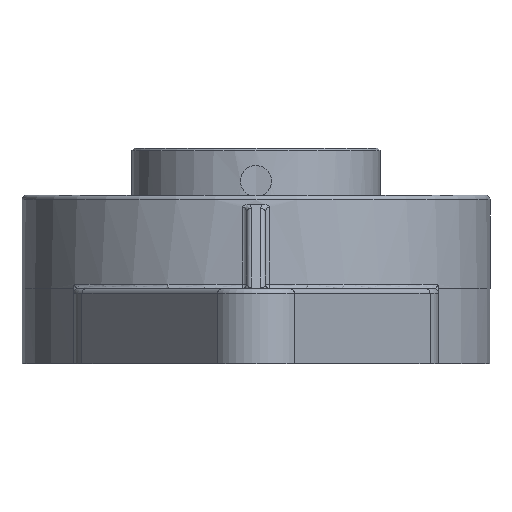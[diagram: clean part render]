
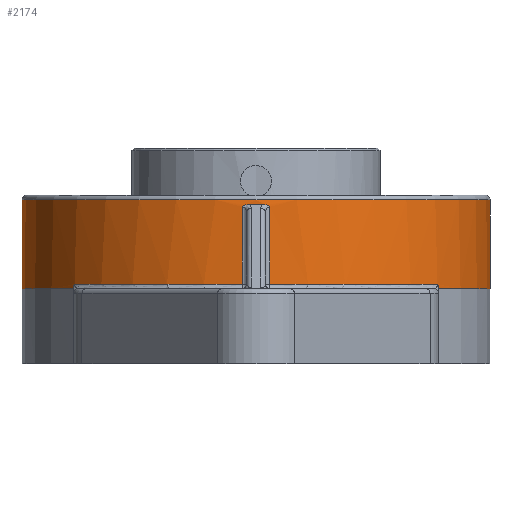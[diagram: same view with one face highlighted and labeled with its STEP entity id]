
A CAD part, front view. The second image highlights one B-rep face of the part: STEP entity #2174.
In plain terms, the highlighted cylindrical face has radius 50 mm (diameter 100 mm), a partial arc.
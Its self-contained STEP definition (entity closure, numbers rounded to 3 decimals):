
#655=CARTESIAN_POINT('Vertex',(1.626,-49.974,34.042)) ;
#682=CARTESIAN_POINT('Vertex',(2.941,-49.913,33.511)) ;
#686=CARTESIAN_POINT('Control Point',(1.626,-49.974,34.042)) ;
#687=CARTESIAN_POINT('Control Point',(2.051,-49.96,34.05)) ;
#688=CARTESIAN_POINT('Control Point',(2.443,-49.942,33.912)) ;
#689=CARTESIAN_POINT('Control Point',(2.721,-49.926,33.719)) ;
#690=CARTESIAN_POINT('Control Point',(2.941,-49.913,33.511)) ;
#770=CARTESIAN_POINT('Vertex',(-2.941,-49.913,33.511)) ;
#797=CARTESIAN_POINT('Vertex',(-1.626,-49.974,34.042)) ;
#801=CARTESIAN_POINT('Control Point',(-1.626,-49.974,34.042)) ;
#802=CARTESIAN_POINT('Control Point',(-2.051,-49.96,34.05)) ;
#803=CARTESIAN_POINT('Control Point',(-2.443,-49.942,33.912)) ;
#804=CARTESIAN_POINT('Control Point',(-2.721,-49.926,33.719)) ;
#805=CARTESIAN_POINT('Control Point',(-2.941,-49.913,33.511)) ;
#853=CARTESIAN_POINT('Vertex',(2.941,-49.913,17.)) ;
#856=CARTESIAN_POINT('Line Origine',(2.941,-49.913,26.)) ;
#907=CARTESIAN_POINT('Control Point',(-1.626,-49.974,34.042)) ;
#908=CARTESIAN_POINT('Control Point',(-0.976,-49.995,34.029)) ;
#909=CARTESIAN_POINT('Control Point',(-0.325,-50.005,34.023)) ;
#910=CARTESIAN_POINT('Control Point',(0.325,-50.005,34.023)) ;
#911=CARTESIAN_POINT('Control Point',(0.976,-49.995,34.029)) ;
#912=CARTESIAN_POINT('Control Point',(1.626,-49.974,34.042)) ;
#974=CARTESIAN_POINT('Vertex',(-2.941,-49.913,17.)) ;
#977=CARTESIAN_POINT('Line Origine',(-2.941,-49.913,26.)) ;
#1547=CARTESIAN_POINT('Vertex',(39.,-31.289,16.08)) ;
#1559=CARTESIAN_POINT('Vertex',(39.,-31.289,16.)) ;
#1562=CARTESIAN_POINT('Line Origine',(39.,-31.289,16.04)) ;
#1607=CARTESIAN_POINT('Vertex',(-39.,-31.289,16.08)) ;
#1610=CARTESIAN_POINT('Line Origine',(-39.,-31.289,16.04)) ;
#1614=CARTESIAN_POINT('Vertex',(-39.,-31.289,16.)) ;
#1744=CARTESIAN_POINT('Vertex',(-38.776,-31.567,17.)) ;
#1747=CARTESIAN_POINT('Axis2P3D Location',(0.,0.,17.)) ;
#1777=CARTESIAN_POINT('Vertex',(38.776,-31.567,17.)) ;
#1780=CARTESIAN_POINT('Axis2P3D Location',(0.,0.,17.)) ;
#1990=CARTESIAN_POINT('Control Point',(39.,-31.289,16.08)) ;
#1991=CARTESIAN_POINT('Control Point',(39.,-31.289,16.373)) ;
#1992=CARTESIAN_POINT('Control Point',(38.953,-31.347,16.645)) ;
#1993=CARTESIAN_POINT('Control Point',(38.872,-31.448,16.848)) ;
#1994=CARTESIAN_POINT('Control Point',(38.776,-31.567,17.)) ;
#2077=CARTESIAN_POINT('Control Point',(-39.,-31.289,16.08)) ;
#2078=CARTESIAN_POINT('Control Point',(-39.,-31.289,16.373)) ;
#2079=CARTESIAN_POINT('Control Point',(-38.954,-31.347,16.644)) ;
#2080=CARTESIAN_POINT('Control Point',(-38.872,-31.448,16.849)) ;
#2081=CARTESIAN_POINT('Control Point',(-38.776,-31.567,17.)) ;
#2118=CARTESIAN_POINT('Axis2P3D Location',(0.,0.,26.)) ;
#2123=CARTESIAN_POINT('Line Origine',(-50.,0.,26.)) ;
#2127=CARTESIAN_POINT('Vertex',(-50.,0.,16.)) ;
#2129=CARTESIAN_POINT('Vertex',(-50.,0.,35.)) ;
#2132=CARTESIAN_POINT('Axis2P3D Location',(0.,0.,16.)) ;
#2137=CARTESIAN_POINT('Axis2P3D Location',(0.,0.,16.)) ;
#2141=CARTESIAN_POINT('Vertex',(50.,0.,16.)) ;
#2144=CARTESIAN_POINT('Line Origine',(50.,0.,26.)) ;
#2148=CARTESIAN_POINT('Vertex',(50.,0.,35.)) ;
#2151=CARTESIAN_POINT('Axis2P3D Location',(0.,0.,35.)) ;
#857=DIRECTION('Vector Direction',(0.,0.,1.)) ;
#978=DIRECTION('Vector Direction',(0.,0.,-1.)) ;
#1563=DIRECTION('Vector Direction',(0.,0.,1.)) ;
#1611=DIRECTION('Vector Direction',(0.,0.,1.)) ;
#1748=DIRECTION('Axis2P3D Direction',(0.,-0.,1.)) ;
#1781=DIRECTION('Axis2P3D Direction',(0.,0.,1.)) ;
#2119=DIRECTION('Axis2P3D Direction',(0.,0.,1.)) ;
#2120=DIRECTION('Axis2P3D XDirection',(1.,0.,0.)) ;
#2124=DIRECTION('Vector Direction',(0.,0.,1.)) ;
#2133=DIRECTION('Axis2P3D Direction',(0.,0.,1.)) ;
#2138=DIRECTION('Axis2P3D Direction',(0.,0.,1.)) ;
#2145=DIRECTION('Vector Direction',(0.,0.,1.)) ;
#2152=DIRECTION('Axis2P3D Direction',(0.,0.,1.)) ;
#1749=AXIS2_PLACEMENT_3D('Circle Axis2P3D',#1747,#1748,$) ;
#1782=AXIS2_PLACEMENT_3D('Circle Axis2P3D',#1780,#1781,$) ;
#2121=AXIS2_PLACEMENT_3D('Cylinder Axis2P3D',#2118,#2119,#2120) ;
#2134=AXIS2_PLACEMENT_3D('Circle Axis2P3D',#2132,#2133,$) ;
#2139=AXIS2_PLACEMENT_3D('Circle Axis2P3D',#2137,#2138,$) ;
#2153=AXIS2_PLACEMENT_3D('Circle Axis2P3D',#2151,#2152,$) ;
#2157=ORIENTED_EDGE('',*,*,#2131,.F.) ;
#2158=ORIENTED_EDGE('',*,*,#2136,.T.) ;
#2159=ORIENTED_EDGE('',*,*,#1616,.T.) ;
#2160=ORIENTED_EDGE('',*,*,#2082,.F.) ;
#2161=ORIENTED_EDGE('',*,*,#1751,.F.) ;
#2162=ORIENTED_EDGE('',*,*,#981,.F.) ;
#2163=ORIENTED_EDGE('',*,*,#806,.F.) ;
#2164=ORIENTED_EDGE('',*,*,#913,.T.) ;
#2165=ORIENTED_EDGE('',*,*,#691,.F.) ;
#2166=ORIENTED_EDGE('',*,*,#860,.T.) ;
#2167=ORIENTED_EDGE('',*,*,#1784,.F.) ;
#2168=ORIENTED_EDGE('',*,*,#1995,.F.) ;
#2169=ORIENTED_EDGE('',*,*,#1566,.T.) ;
#2170=ORIENTED_EDGE('',*,*,#2143,.T.) ;
#2171=ORIENTED_EDGE('',*,*,#2150,.T.) ;
#2172=ORIENTED_EDGE('',*,*,#2155,.F.) ;
#858=VECTOR('Line Direction',#857,1.) ;
#979=VECTOR('Line Direction',#978,1.) ;
#1564=VECTOR('Line Direction',#1563,1.) ;
#1612=VECTOR('Line Direction',#1611,1.) ;
#2125=VECTOR('Line Direction',#2124,1.) ;
#2146=VECTOR('Line Direction',#2145,1.) ;
#2174=ADVANCED_FACE('PartBody',(#2173),#2122,.T.) ;
#685=B_SPLINE_CURVE_WITH_KNOTS('',4,(#686,#687,#688,#689,#690),.UNSPECIFIED.,.F.,.U.,(5,5),(0.,2.422),.UNSPECIFIED.) ;
#800=B_SPLINE_CURVE_WITH_KNOTS('',4,(#801,#802,#803,#804,#805),.UNSPECIFIED.,.F.,.U.,(5,5),(0.,2.422),.UNSPECIFIED.) ;
#906=B_SPLINE_CURVE_WITH_KNOTS('',5,(#907,#908,#909,#910,#911,#912),.UNSPECIFIED.,.F.,.U.,(6,6),(0.53,5.129),.UNSPECIFIED.) ;
#1989=B_SPLINE_CURVE_WITH_KNOTS('',4,(#1990,#1991,#1992,#1993,#1994),.UNSPECIFIED.,.F.,.U.,(5,5),(0.,1.839),.UNSPECIFIED.) ;
#2076=B_SPLINE_CURVE_WITH_KNOTS('',4,(#2077,#2078,#2079,#2080,#2081),.UNSPECIFIED.,.F.,.U.,(5,5),(0.,1.837),.UNSPECIFIED.) ;
#1750=CIRCLE('generated circle',#1749,50.) ;
#1783=CIRCLE('generated circle',#1782,50.) ;
#2135=CIRCLE('generated circle',#2134,50.) ;
#2140=CIRCLE('generated circle',#2139,50.) ;
#2154=CIRCLE('generated circle',#2153,50.) ;
#2122=CYLINDRICAL_SURFACE('generated cylinder',#2121,50.) ;
#691=EDGE_CURVE('',#683,#656,#685,.F.) ;
#806=EDGE_CURVE('',#798,#771,#800,.T.) ;
#860=EDGE_CURVE('',#683,#854,#859,.F.) ;
#913=EDGE_CURVE('',#798,#656,#906,.T.) ;
#981=EDGE_CURVE('',#771,#975,#980,.T.) ;
#1566=EDGE_CURVE('',#1548,#1560,#1565,.F.) ;
#1616=EDGE_CURVE('',#1615,#1608,#1613,.T.) ;
#1751=EDGE_CURVE('',#975,#1745,#1750,.F.) ;
#1784=EDGE_CURVE('',#1778,#854,#1783,.F.) ;
#1995=EDGE_CURVE('',#1548,#1778,#1989,.T.) ;
#2082=EDGE_CURVE('',#1745,#1608,#2076,.F.) ;
#2131=EDGE_CURVE('',#2128,#2130,#2126,.T.) ;
#2136=EDGE_CURVE('',#2128,#1615,#2135,.T.) ;
#2143=EDGE_CURVE('',#1560,#2142,#2140,.T.) ;
#2150=EDGE_CURVE('',#2142,#2149,#2147,.T.) ;
#2155=EDGE_CURVE('',#2130,#2149,#2154,.T.) ;
#2156=EDGE_LOOP('',(#2157,#2158,#2159,#2160,#2161,#2162,#2163,#2164,#2165,#2166,#2167,#2168,#2169,#2170,#2171,#2172)) ;
#2173=FACE_OUTER_BOUND('',#2156,.T.) ;
#859=LINE('Line',#856,#858) ;
#980=LINE('Line',#977,#979) ;
#1565=LINE('Line',#1562,#1564) ;
#1613=LINE('Line',#1610,#1612) ;
#2126=LINE('Line',#2123,#2125) ;
#2147=LINE('Line',#2144,#2146) ;
#656=VERTEX_POINT('',#655) ;
#683=VERTEX_POINT('',#682) ;
#771=VERTEX_POINT('',#770) ;
#798=VERTEX_POINT('',#797) ;
#854=VERTEX_POINT('',#853) ;
#975=VERTEX_POINT('',#974) ;
#1548=VERTEX_POINT('',#1547) ;
#1560=VERTEX_POINT('',#1559) ;
#1608=VERTEX_POINT('',#1607) ;
#1615=VERTEX_POINT('',#1614) ;
#1745=VERTEX_POINT('',#1744) ;
#1778=VERTEX_POINT('',#1777) ;
#2128=VERTEX_POINT('',#2127) ;
#2130=VERTEX_POINT('',#2129) ;
#2142=VERTEX_POINT('',#2141) ;
#2149=VERTEX_POINT('',#2148) ;
